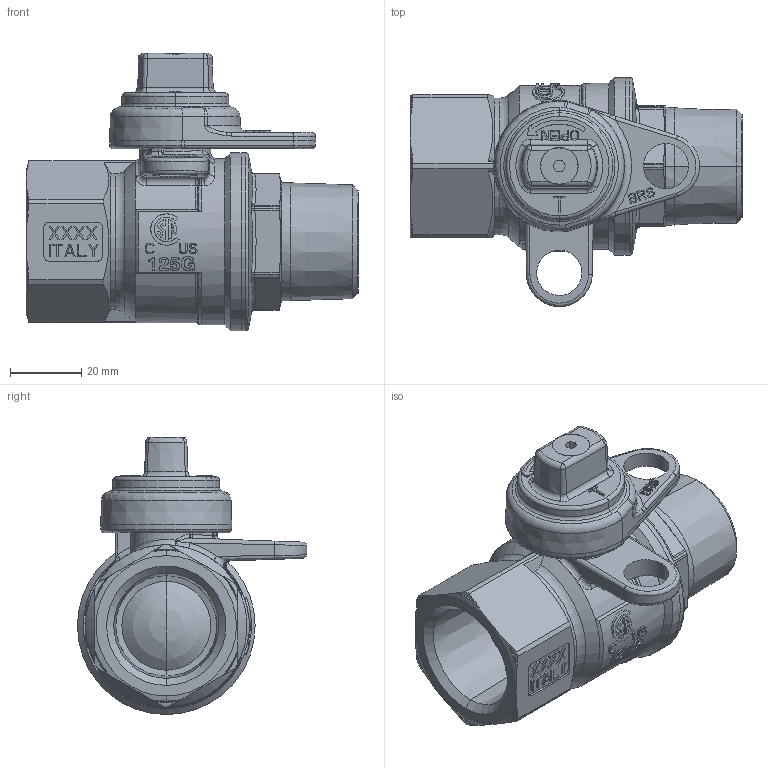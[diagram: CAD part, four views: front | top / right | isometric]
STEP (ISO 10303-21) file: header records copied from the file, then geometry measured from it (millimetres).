
FILE_DESCRIPTION(('Open CASCADE Model'),'2;1');
FILE_NAME('Open CASCADE Shape Model','2021-12-01T11:57:29',('Author'),( 'Open CASCADE'),'Open CASCADE STEP processor 7.3','Open CASCADE 7.3' ,'Unknown');
FILE_SCHEMA(('AUTOMOTIVE_DESIGN { 1 0 10303 214 1 1 1 1 }'));
Length unit declared in the file: millimetre
Products named in the file (20): Open CASCADE STEP translator 7.3 1; Open CASCADE STEP translator 7.3 1.1; Open CASCADE STEP translator 7.3 1.2; Open CASCADE STEP translator 7.3 1.3; Open CASCADE STEP translator 7.3 1.4; Open CASCADE STEP translator 7.3 1.5; Open CASCADE STEP translator 7.3 1.6; Open CASCADE STEP translator 7.3 1.7; Open CASCADE STEP translator 7.3 1.8; Open CASCADE STEP translator 7.3 1.9; Open CASCADE STEP translator 7.3 1.10; Open CASCADE STEP translator 7.3 1.11; Open CASCADE STEP translator 7.3 1.12; Open CASCADE STEP translator 7.3 1.13; Open CASCADE STEP translator 7.3 1.14; Open CASCADE STEP translator 7.3 1.15; Open CASCADE STEP translator 7.3 1.16; Open CASCADE STEP translator 7.3 1.17; Open CASCADE STEP translator 7.3 1.18; Open CASCADE STEP translator 7.3 1.19
Assembly tree (19 placements, depth 2):
  Open CASCADE STEP translator 7.3 1
    Open CASCADE STEP translator 7.3 1.1
    Open CASCADE STEP translator 7.3 1.2
    Open CASCADE STEP translator 7.3 1.3
    Open CASCADE STEP translator 7.3 1.4
    Open CASCADE STEP translator 7.3 1.5
    Open CASCADE STEP translator 7.3 1.6
    Open CASCADE STEP translator 7.3 1.7
    Open CASCADE STEP translator 7.3 1.8
    Open CASCADE STEP translator 7.3 1.9
    Open CASCADE STEP translator 7.3 1.10
    Open CASCADE STEP translator 7.3 1.11
    Open CASCADE STEP translator 7.3 1.12
    Open CASCADE STEP translator 7.3 1.13
    Open CASCADE STEP translator 7.3 1.14
    Open CASCADE STEP translator 7.3 1.15
    Open CASCADE STEP translator 7.3 1.16
    Open CASCADE STEP translator 7.3 1.17
    Open CASCADE STEP translator 7.3 1.18
    Open CASCADE STEP translator 7.3 1.19
Bounding box: 93.4 x 64.48 x 78 mm (x, y, z)
Volume: 122395.7 mm3; surface area: 61226 mm2
Topology: 12 solids, 19 shells, 1790 faces, 4745 edges, 3049 vertices
Faces by surface type: plane 1031, bspline 256, cylinder 210, cone 123, torus 86, sphere 35, extrusion 33, revolution 16
Entity records: 164502 total; most frequent: CARTESIAN_POINT 75873, DIRECTION 14193, ORIENTED_EDGE 9448, PCURVE 9448, DEFINITIONAL_REPRESENTATION 9448, VECTOR 9445, LINE 9412, EDGE_CURVE 4739
